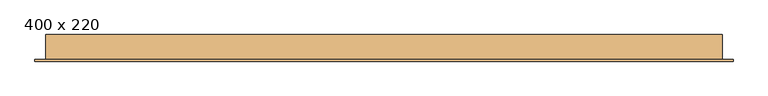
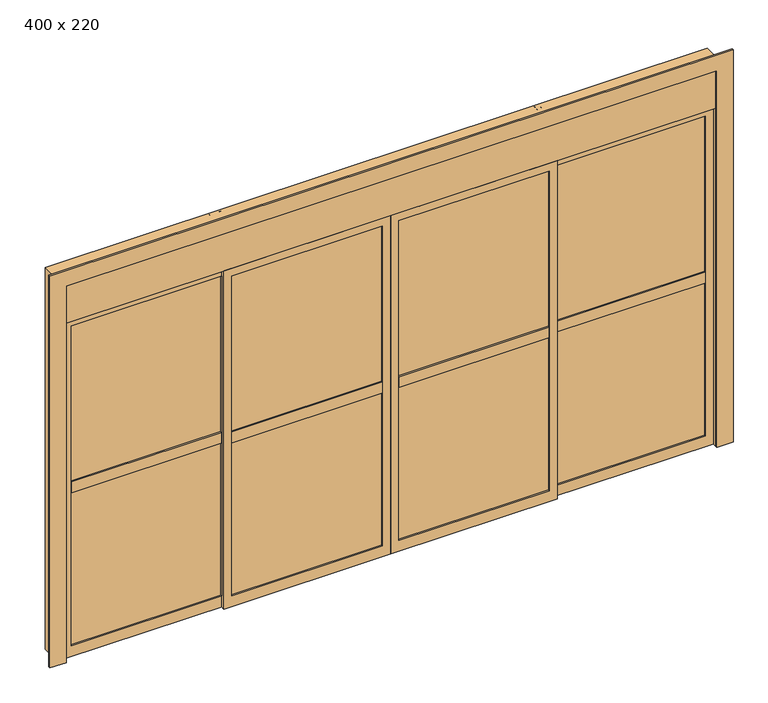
"""IFC4 building model written with IfcOpenShell, lengths in millimetres: door geometry, PORTA DE VIDRO COM ESQUADRIA DE CORRER - 4 FOLHAS + PERSIANA INTEGRADA : 400 x 220."""

from ifc_helpers import new_model, si_unit, frame, origin, origin_with_axes, place, context, project, spatial, polyline, outline, extrude, source, transform, mapped, element, save


def door_400_x_220_30593671(model_context):
    return source(origin(), model_context, "Body", "SweptSolid", [
        extrude(outline(polyline([(1087.5955153, -23.0729249), (2012.5955153, -23.0729249), (2012.5955153, -48.0729249), (1087.5955153, -48.0729249), (1087.5955153, -23.0729249)])), frame((0.0, 0.0, 1065.0), z_axis=(0.0, 0.0, 1.0), x_axis=(1.0, 0.0, 0.0)), (0.0, 0.0, 1.0), 70.0),
        extrude(outline(polyline([(2012.5955153, -32.5729249), (2012.5955153, -38.5729249), (1087.5955153, -38.5729249), (1087.5955153, -32.5729249), (2012.5955153, -32.5729249)])), frame((0.0, 0.0, 70.0), z_axis=(0.0, 0.0, 1.0), x_axis=(1.0, 0.0, 0.0)), (0.0, 0.0, 1.0), 2080.0),
        extrude(outline(polyline([(2200.0, 2062.5955153), (2200.0, 1037.5955153), (0.0, 1037.5955153), (0.0, 2062.5955153), (2200.0, 2062.5955153)]), holes=[polyline([(2150.0, 2012.5955153), (70.0, 2012.5955153), (70.0, 1087.5955153), (2150.0, 1087.5955153), (2150.0, 2012.5955153)])]), frame((0.0, -48.0729249, 0.0), z_axis=(0.0, 1.0, 0.0), x_axis=(0.0, 0.0, 1.0)), (0.0, 0.0, 1.0), 25.0),
        extrude(outline(polyline([(1037.5955153, -48.0729249), (1037.5955153, -73.0729249), (112.5955153, -73.0729249), (112.5955153, -48.0729249), (1037.5955153, -48.0729249)])), frame((0.0, 0.0, 1065.0), z_axis=(0.0, 0.0, 1.0), x_axis=(1.0, 0.0, 0.0)), (0.0, 0.0, 1.0), 70.0),
        extrude(outline(polyline([(112.5955153, -57.5729249), (1037.5955153, -57.5729249), (1037.5955153, -63.5729249), (112.5955153, -63.5729249), (112.5955153, -57.5729249)])), frame((0.0, 0.0, 70.0), z_axis=(0.0, 0.0, 1.0), x_axis=(1.0, 0.0, 0.0)), (0.0, 0.0, 1.0), 2080.0),
        extrude(outline(polyline([(2200.0, 62.5955153), (0.0, 62.5955153), (0.0, 1087.5955153), (2200.0, 1087.5955153), (2200.0, 62.5955153)]), holes=[polyline([(2150.0, 112.5955153), (2150.0, 1037.5955153), (70.0, 1037.5955153), (70.0, 112.5955153), (2150.0, 112.5955153)])]), frame((0.0, -73.0729249, 0.0), z_axis=(0.0, 1.0, 0.0), x_axis=(0.0, 0.0, 1.0)), (0.0, 0.0, 1.0), 25.0),
        extrude(outline(polyline([(-962.4044847, -23.0729249), (-962.4044847, -48.0729249), (-1887.4044847, -48.0729249), (-1887.4044847, -23.0729249), (-962.4044847, -23.0729249)])), frame((0.0, 0.0, 1065.0), z_axis=(0.0, 0.0, 1.0), x_axis=(1.0, 0.0, 0.0)), (0.0, 0.0, 1.0), 70.0),
        extrude(outline(polyline([(-1887.4044847, -32.5729249), (-962.4044847, -32.5729249), (-962.4044847, -38.5729249), (-1887.4044847, -38.5729249), (-1887.4044847, -32.5729249)])), frame((0.0, 0.0, 70.0), z_axis=(0.0, 0.0, 1.0), x_axis=(1.0, 0.0, 0.0)), (0.0, 0.0, 1.0), 2080.0),
        extrude(outline(polyline([(2200.0, -1937.4044847), (0.0, -1937.4044847), (0.0, -912.4044847), (2200.0, -912.4044847), (2200.0, -1937.4044847)]), holes=[polyline([(2150.0, -1887.4044847), (2150.0, -962.4044847), (70.0, -962.4044847), (70.0, -1887.4044847), (2150.0, -1887.4044847)])]), frame((0.0, -48.0729249, 0.0), z_axis=(0.0, 1.0, 0.0), x_axis=(0.0, 0.0, 1.0)), (0.0, 0.0, 1.0), 25.0),
        extrude(outline(polyline([(-912.4044847, -48.0729249), (12.5955153, -48.0729249), (12.5955153, -73.0729249), (-912.4044847, -73.0729249), (-912.4044847, -48.0729249)])), frame((0.0, 0.0, 1065.0), z_axis=(0.0, 0.0, 1.0), x_axis=(1.0, 0.0, 0.0)), (0.0, 0.0, 1.0), 70.0),
        extrude(outline(polyline([(12.5955153, -57.5729249), (12.5955153, -63.5729249), (-912.4044847, -63.5729249), (-912.4044847, -57.5729249), (12.5955153, -57.5729249)])), frame((0.0, 0.0, 70.0), z_axis=(0.0, 0.0, 1.0), x_axis=(1.0, 0.0, 0.0)), (0.0, 0.0, 1.0), 2080.0),
        extrude(outline(polyline([(2200.0, 62.5955153), (2200.0, -962.4044847), (0.0, -962.4044847), (0.0, 62.5955153), (2200.0, 62.5955153)]), holes=[polyline([(2150.0, 12.5955153), (70.0, 12.5955153), (70.0, -912.4044847), (2150.0, -912.4044847), (2150.0, 12.5955153)])]), frame((0.0, -73.0729249, 0.0), z_axis=(0.0, 1.0, 0.0), x_axis=(0.0, 0.0, 1.0)), (0.0, 0.0, 1.0), 25.0),
        extrude(outline(polyline([(2485.0, -1972.4044847), (0.0, -1972.4044847), (0.0, -1937.4044847), (2450.0, -1937.4044847), (2450.0, 2062.5955153), (0.0, 2062.5955153), (0.0, 2097.5955153), (2485.0, 2097.5955153), (2485.0, -1972.4044847)])), frame((0.0, -73.0729249, 0.0), z_axis=(0.0, 1.0, 0.0), x_axis=(0.0, 0.0, 1.0)), (0.0, 0.0, 1.0), 150.0),
        extrude(outline(polyline([(2450.0, -1937.4044847), (2450.0, 2062.5955153), (0.0, 2062.5955153), (0.0, 2162.5955153), (2550.0, 2162.5955153), (2550.0, -2037.4044847), (0.0, -2037.4044847), (0.0, -1937.4044847), (2450.0, -1937.4044847)])), frame((0.0, -83.0729249, 0.0), z_axis=(0.0, 1.0, 0.0), x_axis=(0.0, 0.0, 1.0)), (0.0, 0.0, 1.0), 10.0),
        extrude(outline(polyline([(-1937.4044847, 66.9270751), (-1937.4044847, 71.9270751), (2062.5955153, 71.9270751), (2062.5955153, 66.9270751), (-1937.4044847, 66.9270751)])), frame((0.0, 0.0, 2200.0), z_axis=(0.0, 0.0, 1.0), x_axis=(1.0, 0.0, 0.0)), (0.0, 0.0, 1.0), 250.0),
        extrude(outline(polyline([(-73.0729249, 2450.0), (-68.0729249, 2450.0), (-68.0729249, 2205.0), (36.9270751, 2205.0), (36.9270751, 2200.0), (-73.0729249, 2200.0), (-73.0729249, 2450.0)])), frame((-1937.4044847, 0.0, 0.0), z_axis=(1.0, 0.0, 0.0), x_axis=(0.0, 1.0, 0.0)), (0.0, 0.0, 1.0), 4000.0),
        extrude(outline(polyline([(1097.5955153, 66.9270751), (1097.5955153, 61.9270751), (1070.9288487, 61.9270751), (1070.9288487, 41.9270751), (1097.5955153, 41.9270751), (1097.5955153, 36.9270751), (1027.5955153, 36.9270751), (1027.5955153, 41.9270751), (1054.262182, 41.9270751), (1054.262182, 61.9270751), (1027.5955153, 61.9270751), (1027.5955153, 66.9270751), (1097.5955153, 66.9270751)])), origin_with_axes(), (0.0, 0.0, 1.0), 2485.0),
        extrude(outline(polyline([(-902.4044847, 66.9270751), (-902.4044847, 61.9270751), (-929.0711513, 61.9270751), (-929.0711513, 41.9270751), (-902.4044847, 41.9270751), (-902.4044847, 36.9270751), (-972.4044847, 36.9270751), (-972.4044847, 41.9270751), (-945.737818, 41.9270751), (-945.737818, 61.9270751), (-972.4044847, 61.9270751), (-972.4044847, 66.9270751), (-902.4044847, 66.9270751)])), origin_with_axes(), (0.0, 0.0, 1.0), 2485.0),
        extrude(outline(polyline([(2022.5955153, 66.9270751), (2062.5955153, 66.9270751), (2062.5955153, 61.9270751), (2022.5955153, 61.9270751), (2022.5955153, 66.9270751)])), origin_with_axes(), (0.0, 0.0, 1.0), 2450.0),
        extrude(outline(polyline([(2022.5955153, 41.9270751), (2062.5955153, 41.9270751), (2062.5955153, 36.9270751), (2022.5955153, 36.9270751), (2022.5955153, 41.9270751)])), origin_with_axes(), (0.0, 0.0, 1.0), 2450.0),
        extrude(outline(polyline([(-1897.4044847, 66.9270751), (-1897.4044847, 61.9270751), (-1937.4044847, 61.9270751), (-1937.4044847, 66.9270751), (-1897.4044847, 66.9270751)])), origin_with_axes(), (0.0, 0.0, 1.0), 2450.0),
        extrude(outline(polyline([(-1897.4044847, 41.9270751), (-1897.4044847, 36.9270751), (-1937.4044847, 36.9270751), (-1937.4044847, 41.9270751), (-1897.4044847, 41.9270751)])), origin_with_axes(), (0.0, 0.0, 1.0), 2450.0),
        extrude(outline(polyline([(-1937.4044847, 47.9270751), (-1937.4044847, 55.9270751), (2062.5955153, 55.9270751), (2062.5955153, 47.9270751), (-1937.4044847, 47.9270751)])), frame((0.0, 0.0, 2330.0), z_axis=(0.0, 0.0, 1.0), x_axis=(1.0, 0.0, 0.0)), (0.0, 0.0, 1.0), 120.0),
    ])


if __name__ == "__main__":
    model = new_model("IFC4")
    model_context = context("Model", 3, world=origin())
    ifc_project = project(units=[si_unit("LENGTHUNIT", "METRE", prefix="MILLI")], contexts=[model_context])
    site = spatial("IfcSite", under=ifc_project)
    building = spatial("IfcBuilding", under=site)
    placement = place(None, origin())
    door_400_x_220_shape = door_400_x_220_30593671(model_context)
    element("IfcDoor", 1, ObjectType="PORTA DE VIDRO COM ESQUADRIA DE CORRER - 4 FOLHAS + PERSIANA INTEGRADA : 400 x 220", at=placement, inside=building, context=model_context, shape_type="MappedRepresentation", body=[
        mapped(door_400_x_220_shape, transform((0.0, 0.0, 0.0), x_axis=(1.0, 0.0, 0.0), y_axis=(0.0, 1.0, 0.0), z_axis=(0.0, 0.0, 1.0))),
    ])
    save(model, "model.ifc")
